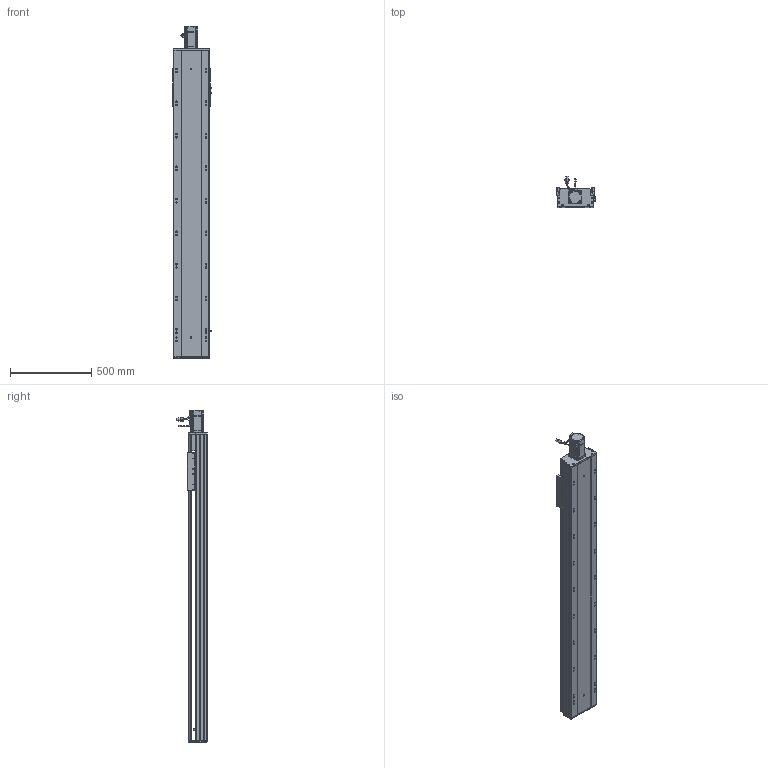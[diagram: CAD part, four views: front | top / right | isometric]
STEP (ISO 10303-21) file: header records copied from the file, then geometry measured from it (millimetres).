
FILE_DESCRIPTION (( 'STEP AP203' ), '1' );
FILE_NAME ('RY220-L2525-800-MK-邧嶺.SLDASM_1450.step', '2022-08-06T08:57:57', ( '' ), ( '' ), 'SwSTEP 2.0', 'SolidWorks 2016', '' );
FILE_SCHEMA (( 'CONFIG_CONTROL_DESIGN' ));
Length unit declared in the file: millimetre
Products named in the file (12): RY220ヶ裔啣; RY220半封闭25-32螺母铝滑块; 滅袉蝶18-15; 覜茼ん672; RY220菁釱MK-800-邧嶺_1450; RY220綴裔啣; RY220-L2525-800-MK-邧嶺.SLDASM_1450; 怢湛750W_ECMA-CX0807ES; 滅袉蝶18-12; RY220-800-奻裔啣-MK_1450; RY220电机支撑座FK20（PCD90M6）; RY220-俋离672覜茼んえ
Assembly tree (15 placements, depth 2):
  RY220-L2525-800-MK-邧嶺.SLDASM_1450
    RY220菁釱MK-800-邧嶺_1450
    RY220电机支撑座FK20（PCD90M6）
    怢湛750W_ECMA-CX0807ES
    滅袉蝶18-12  x2
    RY220ヶ裔啣
    RY220綴裔啣
    覜茼ん672  x3
    RY220半封闭25-32螺母铝滑块
    RY220-800-奻裔啣-MK_1450
    RY220-俋离672覜茼んえ
    滅袉蝶18-15  x2
Bounding box: 238.7 x 187.27 x 2040.3 mm (x, y, z)
Volume: 15458119.8 mm3; surface area: 4445492.9 mm2
Topology: 16 solids, 16 shells, 2332 faces, 6474 edges, 4072 vertices
Faces by surface type: cylinder 1074, plane 915, cone 281, bspline 36, sphere 16, torus 10
Entity records: 76872 total; most frequent: CARTESIAN_POINT 21777, ORIENTED_EDGE 11424, DIRECTION 10875, EDGE_CURVE 5712, AXIS2_PLACEMENT_3D 3853, VERTEX_POINT 3728, VECTOR 3169, LINE 3169
